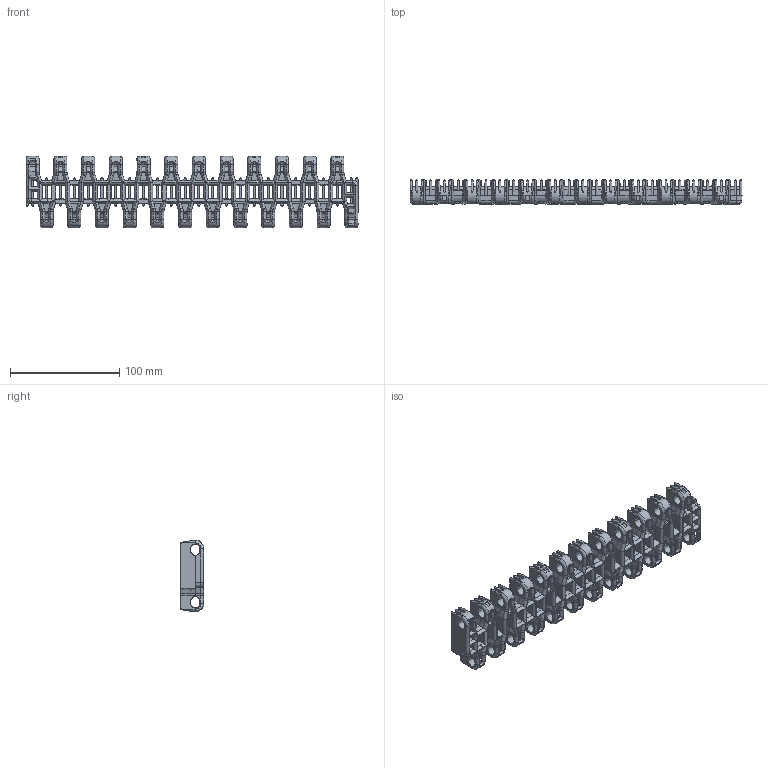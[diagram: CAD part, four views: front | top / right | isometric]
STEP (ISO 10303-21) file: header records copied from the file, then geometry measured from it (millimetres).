
FILE_DESCRIPTION((''),'2;1');
FILE_NAME('P032','2016-05-25T',('jas'),(''),'CREO PARAMETRIC BY PTC INC, 2016050','CREO PARAMETRIC BY PTC INC, 2016050','');
FILE_SCHEMA(('AUTOMOTIVE_DESIGN { 1 0 10303 214 1 1 1 1 }'));
Products named in the file (1): P032
Bounding box: 304.48 x 22 x 66 mm (x, y, z)
Volume: 149624.7 mm3; surface area: 102016.5 mm2
Topology: 1 solids, 1 shells, 3664 faces, 9300 edges, 5442 vertices
Faces by surface type: plane 1246, cylinder 862, bspline 460, cone 434, torus 410, extrusion 242, revolution 10
Entity records: 162071 total; most frequent: CARTESIAN_POINT 78988, ORIENTED_EDGE 18600, DIRECTION 15306, EDGE_CURVE 9300, VERTEX_POINT 5442, AXIS2_PLACEMENT_3D 5292, VECTOR 4712, LINE 4470
